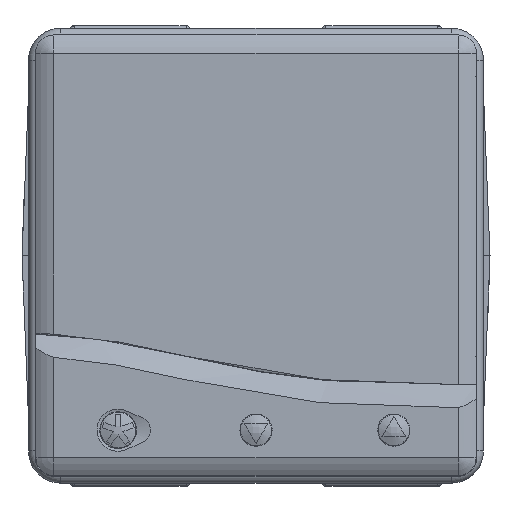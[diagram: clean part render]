
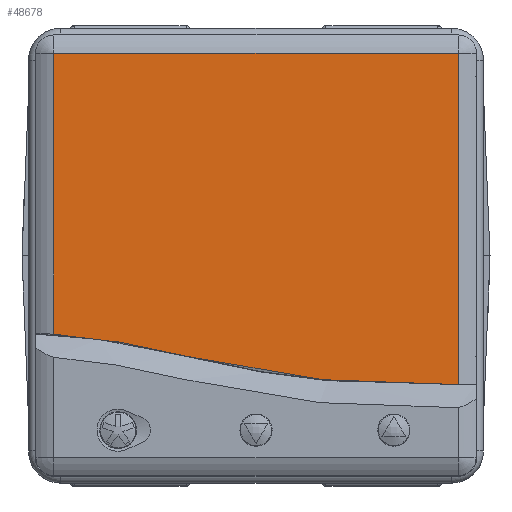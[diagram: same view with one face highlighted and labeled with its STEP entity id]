
A CAD part, top view. The second image highlights one B-rep face of the part: STEP entity #48678.
In plain terms, the highlighted planar face has unit normal (0, 0, 1).
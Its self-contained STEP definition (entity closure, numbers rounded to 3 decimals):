
#916 = CARTESIAN_POINT ( 'NONE',  ( -0.269, -13.453, 7. ) ) ;
#5080 = ORIENTED_EDGE ( 'NONE', *, *, #67420, .F. ) ;
#7112 = CARTESIAN_POINT ( 'NONE',  ( 14.652, -14.171, 7. ) ) ;
#8258 = EDGE_CURVE ( 'NONE', #56813, #69207, #69517, .T. ) ;
#8774 = CARTESIAN_POINT ( 'NONE',  ( -22., 22., 7. ) ) ;
#9243 = EDGE_CURVE ( 'NONE', #10265, #41535, #81397, .T. ) ;
#9688 = CARTESIAN_POINT ( 'NONE',  ( -22., -22., 7. ) ) ;
#10265 = VERTEX_POINT ( 'NONE', #37645 ) ;
#11704 = EDGE_LOOP ( 'NONE', ( #31575, #28110, #65979, #5080 ) ) ;
#15853 = CARTESIAN_POINT ( 'NONE',  ( 22., 22., 7. ) ) ;
#20133 = CARTESIAN_POINT ( 'NONE',  ( 22., -14.046, 7. ) ) ;
#28110 = ORIENTED_EDGE ( 'NONE', *, *, #49779, .T. ) ;
#29459 = PLANE ( 'NONE',  #46741 ) ;
#30918 = B_SPLINE_CURVE_WITH_KNOTS ( 'NONE', 3,
 ( #20133, #7112, #916, #33108, #51541 ),
 .UNSPECIFIED., .F., .F.,
 ( 4, 1, 4 ),
 ( 0.041, 0.497, 0.959 ),
 .UNSPECIFIED. ) ;
#31575 = ORIENTED_EDGE ( 'NONE', *, *, #8258, .T. ) ;
#33108 = CARTESIAN_POINT ( 'NONE',  ( -14.518, -8.955, 7. ) ) ;
#37138 = VECTOR ( 'NONE', #48412, 1000. ) ;
#37645 = CARTESIAN_POINT ( 'NONE',  ( -22., 22., 7. ) ) ;
#38797 = VECTOR ( 'NONE', #54290, 1000. ) ;
#41535 = VERTEX_POINT ( 'NONE', #69571 ) ;
#41843 = CARTESIAN_POINT ( 'NONE',  ( 22., -15.046, 7. ) ) ;
#42505 = LINE ( 'NONE', #81631, #44610 ) ;
#44610 = VECTOR ( 'NONE', #49140, 1000. ) ;
#46741 = AXIS2_PLACEMENT_3D ( 'NONE', #9688, #74682, #55475 ) ;
#48412 = DIRECTION ( 'NONE',  ( 0., 1., 0. ) ) ;
#48678 = ADVANCED_FACE ( 'NONE', ( #69085 ), #29459, .T. ) ;
#49140 = DIRECTION ( 'NONE',  ( -1., 0., 0. ) ) ;
#49779 = EDGE_CURVE ( 'NONE', #69207, #10265, #42505, .T. ) ;
#51541 = CARTESIAN_POINT ( 'NONE',  ( -22., -8.559, 7. ) ) ;
#53576 = CARTESIAN_POINT ( 'NONE',  ( 22., -14.046, 7. ) ) ;
#54290 = DIRECTION ( 'NONE',  ( 0., -1., 0. ) ) ;
#55475 = DIRECTION ( 'NONE',  ( 1., 0., 0. ) ) ;
#56813 = VERTEX_POINT ( 'NONE', #53576 ) ;
#65979 = ORIENTED_EDGE ( 'NONE', *, *, #9243, .T. ) ;
#67420 = EDGE_CURVE ( 'NONE', #56813, #41535, #30918, .T. ) ;
#69085 = FACE_OUTER_BOUND ( 'NONE', #11704, .T. ) ;
#69207 = VERTEX_POINT ( 'NONE', #15853 ) ;
#69517 = LINE ( 'NONE', #41843, #37138 ) ;
#69571 = CARTESIAN_POINT ( 'NONE',  ( -22., -8.559, 7. ) ) ;
#74682 = DIRECTION ( 'NONE',  ( 0., 0., 1. ) ) ;
#81397 = LINE ( 'NONE', #8774, #38797 ) ;
#81631 = CARTESIAN_POINT ( 'NONE',  ( 22., 22., 7. ) ) ;
